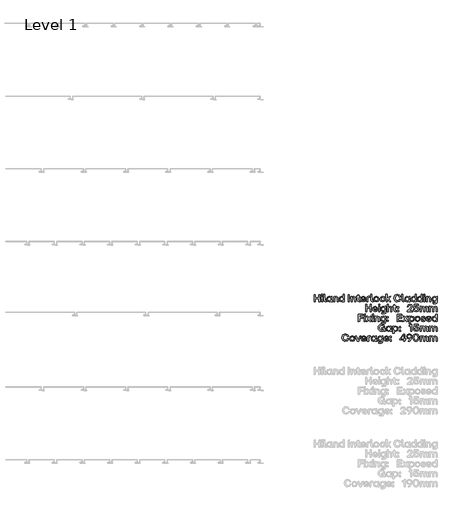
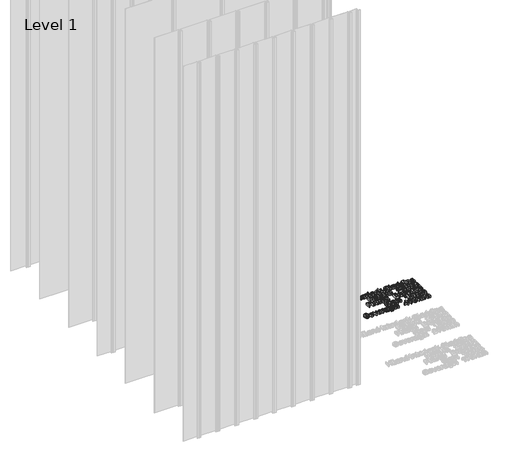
# One storey, part 53 of 64: 1 proxy.
"""IFC4 building model written with IfcOpenShell, lengths in millimetres."""

from ifc_helpers import new_model, si_unit, origin, origin_with_axes, place, context, project, spatial, polyline, outline, extrude, element, save

model = new_model("IFC4")

# Units and contexts
model_context = context("Model", 3, world=origin())
ifc_project = project(units=[si_unit("LENGTHUNIT", "METRE", prefix="MILLI")], contexts=[model_context])

# Site, building, storey
site = spatial("IfcSite", under=ifc_project)
building = spatial("IfcBuilding", under=site)
storey = spatial("IfcBuildingStorey", under=building, Name="Level 1", Elevation=0.0)

# Proxy
placement = place(None, origin())
element("IfcBuildingElementProxy", 1, Name="50mm", ObjectType="50mm", at=placement, inside=storey, context=model_context, shape_type="SweptSolid", body=[
    extrude(outline(polyline([(2183.5639115, 1096.9748178), (2182.8665797, 1118.9128767), (2159.0178316, 1118.9128767), (2159.0178316, 1097.6721497), (2151.5145413, 1096.9748178), (2150.7893162, 1146.2482839), (2158.2786599, 1146.973509), (2159.0178316, 1125.8861949), (2182.8665797, 1125.8861949), (2182.8665797, 1146.2482839), (2190.3559234, 1146.973509), (2191.0532552, 1097.6721497), (2183.5639115, 1096.9748178)])), origin_with_axes(), (0.0, 0.0, 1.0), 20.0),
    extrude(outline(polyline([(2201.1506198, 1096.9748178), (2200.4253948, 1132.6782068), (2207.6358057, 1133.3755386), (2208.3331375, 1097.6721497), (2201.1506198, 1096.9748178)])), origin_with_axes(), (0.0, 0.0, 1.0), 20.0),
    extrude(outline(polyline([(2200.2161952, 1140.0420307), (2199.8675293, 1148.0892399), (2208.2634043, 1148.8284116), (2209.0025761, 1140.3906966), (2200.2161952, 1140.0420307)])), origin_with_axes(), (0.0, 0.0, 1.0), 20.0),
    extrude(outline(polyline([(2227.7329086, 1096.9748178), (2220.0343654, 1099.6246787), (2217.3845045, 1107.3371686), (2217.3845045, 1147.6708408), (2224.5949154, 1148.4100125), (2225.2922473, 1103.2508042), (2231.9587394, 1103.2508042), (2232.6560712, 1097.6721497), (2227.7329086, 1096.9748178)])), origin_with_axes(), (0.0, 0.0, 1.0), 20.0),
    extrude(outline(polyline([(2252.8229073, 1096.5564188), (2241.0519463, 1101.5981278), (2236.6727025, 1115.105445), (2241.0519463, 1128.7452553), (2252.8229073, 1133.8357776), (2259.4405862, 1132.2319144), (2264.4265087, 1127.838724), (2264.7472813, 1132.6782068), (2271.929799, 1133.3755386), (2272.6550241, 1103.2508042), (2276.6019222, 1103.2508042), (2277.299254, 1097.6721497), (2271.3022004, 1096.9748178), (2266.6475105, 1098.282315), (2265.0959472, 1102.2048065), (2259.7404389, 1098.1602819), (2252.8229073, 1096.5564188)]), holes=[polyline([(2244.7338583, 1115.105445), (2247.4883189, 1106.2144644), (2255.0125292, 1102.9718715), (2262.3763532, 1106.2005178), (2265.0262141, 1115.105445), (2262.3554332, 1124.1010254), (2255.0125292, 1127.378485), (2247.4883189, 1124.1010254), (2244.7338583, 1115.105445)])]), origin_with_axes(), (0.0, 0.0, 1.0), 20.0),
    extrude(outline(polyline([(2284.160999, 1096.9748178), (2283.435774, 1132.6782068), (2290.297519, 1133.3755386), (2290.9948508, 1127.838724), (2296.1585929, 1132.3365142), (2302.7797585, 1133.8357776), (2312.3401777, 1129.6517867), (2315.6525038, 1117.40664), (2315.6525038, 1097.6721497), (2308.4281462, 1096.9748178), (2307.7029211, 1117.40664), (2305.750392, 1124.7844106), (2299.5790055, 1127.0995522), (2293.3518324, 1124.749544), (2291.3435167, 1117.40664), (2291.3435167, 1097.6721497), (2284.160999, 1096.9748178)])), origin_with_axes(), (0.0, 0.0, 1.0), 20.0),
    extrude(outline(polyline([(2338.5110407, 1096.5564188), (2326.7400796, 1101.5981278), (2322.3608359, 1115.105445), (2326.7400796, 1128.7452553), (2338.5110407, 1133.8357776), (2345.1287196, 1132.2319144), (2350.1146421, 1127.838724), (2350.4354147, 1147.6708408), (2357.6179324, 1148.4100125), (2358.3431575, 1097.6721497), (2351.4814124, 1096.9748178), (2350.7840806, 1102.4837392), (2345.4285723, 1098.1602819), (2338.5110407, 1096.5564188)]), holes=[polyline([(2330.4219916, 1115.105445), (2333.1764523, 1106.2144644), (2340.7006626, 1102.9718715), (2348.0644865, 1106.2005178), (2350.7143474, 1115.105445), (2348.0435666, 1124.1010254), (2340.7006626, 1127.378485), (2333.1764523, 1124.1010254), (2330.4219916, 1115.105445)])]), origin_with_axes(), (0.0, 0.0, 1.0), 20.0),
    extrude(outline(polyline([(2385.7204045, 1096.9748178), (2385.0230727, 1146.2482839), (2392.526363, 1146.973509), (2393.2236949, 1097.6721497), (2385.7204045, 1096.9748178)])), origin_with_axes(), (0.0, 0.0, 1.0), 20.0),
    extrude(outline(polyline([(2403.7673519, 1096.9748178), (2403.0421268, 1132.6782068), (2409.9038719, 1133.3755386), (2410.6012037, 1127.838724), (2415.7649458, 1132.3365142), (2422.3861113, 1133.8357776), (2431.9465305, 1129.6517867), (2435.2588566, 1117.40664), (2435.2588566, 1097.6721497), (2428.034499, 1096.9748178), (2427.3092739, 1117.40664), (2425.3567449, 1124.7844106), (2419.1853583, 1127.0995522), (2412.9581852, 1124.749544), (2410.9498696, 1117.40664), (2410.9498696, 1097.6721497), (2403.7673519, 1096.9748178)])), origin_with_axes(), (0.0, 0.0, 1.0), 20.0),
    extrude(outline(polyline([(2458.5357926, 1096.9748178), (2450.8233027, 1099.6246787), (2448.1734418, 1107.3371686), (2448.1734418, 1127.0995522), (2441.9671887, 1127.0995522), (2441.2419636, 1132.6782068), (2448.1734418, 1133.3755386), (2448.1734418, 1143.3892234), (2455.3977994, 1144.1144485), (2456.0951313, 1133.3755386), (2464.8815121, 1133.3755386), (2465.6067372, 1127.838724), (2456.0951313, 1127.0995522), (2456.0951313, 1103.2508042), (2464.8815121, 1103.2508042), (2465.6067372, 1097.6721497), (2458.5357926, 1096.9748178)])), origin_with_axes(), (0.0, 0.0, 1.0), 20.0),
    extrude(outline(polyline([(2488.9394597, 1096.5564188), (2475.5367422, 1101.5981278), (2470.5298998, 1115.105445), (2475.5158223, 1128.759202), (2488.9394597, 1133.8357776), (2501.219473, 1128.8289351), (2505.7172632, 1115.1751782), (2505.7172632, 1113.264489), (2478.6607888, 1112.5253173), (2481.7290488, 1105.482266), (2488.9394597, 1102.9718715), (2494.7273138, 1104.2479887), (2497.7258406, 1107.8253009), (2504.8107318, 1108.4110596), (2500.1525553, 1099.6455987), (2488.9394597, 1096.5564188)]), holes=[polyline([(2478.730522, 1118.3131714), (2497.9350401, 1118.3131714), (2495.2921526, 1124.9587436), (2488.9394597, 1127.378485), (2481.8475952, 1125.07729), (2478.730522, 1118.3131714)])]), origin_with_axes(), (0.0, 0.0, 1.0), 20.0),
    extrude(outline(polyline([(2513.1787136, 1096.9748178), (2512.4813818, 1123.0550277), (2515.1312427, 1130.7465976), (2522.8297859, 1133.3755386), (2532.9829371, 1133.3755386), (2533.6802689, 1127.378485), (2520.3891246, 1126.6811531), (2520.3891246, 1097.6721497), (2513.1787136, 1096.9748178)])), origin_with_axes(), (0.0, 0.0, 1.0), 20.0),
    extrude(outline(polyline([(2550.8485782, 1096.9748178), (2543.150035, 1099.6246787), (2540.5001741, 1107.3371686), (2540.5001741, 1147.6708408), (2547.7105851, 1148.4100125), (2548.4079169, 1103.2508042), (2555.074409, 1103.2508042), (2555.7717408, 1097.6721497), (2550.8485782, 1096.9748178)])), origin_with_axes(), (0.0, 0.0, 1.0), 20.0),
    extrude(outline(polyline([(2577.9887324, 1096.5564188), (2564.8300811, 1101.6818076), (2559.7883721, 1115.105445), (2564.8440277, 1128.6406555), (2577.9887324, 1133.8357776), (2591.2589569, 1128.6406555), (2596.3285592, 1115.105445), (2591.2589569, 1101.6818076), (2577.9887324, 1096.5564188)]), holes=[polyline([(2567.8495279, 1115.105445), (2570.548202, 1106.2005178), (2577.9887324, 1102.9718715), (2585.5268894, 1106.2144644), (2588.28135, 1115.105445), (2585.540836, 1124.1010254), (2577.9887324, 1127.378485), (2570.548202, 1124.1010254), (2567.8495279, 1115.105445)])]), origin_with_axes(), (0.0, 0.0, 1.0), 20.0),
    extrude(outline(polyline([(2620.0796808, 1096.5564188), (2606.7466965, 1101.5981278), (2601.7398541, 1115.105445), (2606.8164297, 1128.6406555), (2620.0796808, 1133.8357776), (2631.15331, 1130.3979317), (2636.369352, 1121.3116982), (2629.3541939, 1120.5446332), (2625.783855, 1125.844355), (2620.0796808, 1127.378485), (2612.5206039, 1124.1010254), (2609.8010098, 1115.105445), (2612.5345505, 1106.1795978), (2620.0796808, 1102.9718715), (2625.958188, 1104.4362683), (2628.9357948, 1109.1781246), (2636.0206861, 1109.8475631), (2631.3625095, 1099.9942646), (2620.0796808, 1096.5564188)])), origin_with_axes(), (0.0, 0.0, 1.0), 20.0),
    extrude(outline(polyline([(2644.765227, 1096.9748178), (2644.0400019, 1147.6708408), (2651.2504129, 1148.4100125), (2651.9477447, 1117.6158396), (2667.1914182, 1133.0268727), (2675.0991609, 1133.3755386), (2662.3798286, 1118.4526377), (2676.4659313, 1097.8534559), (2668.8231746, 1096.9748178), (2657.1080001, 1113.264489), (2651.9477447, 1108.2018601), (2651.9477447, 1097.6721497), (2644.765227, 1096.9748178)])), origin_with_axes(), (0.0, 0.0, 1.0), 20.0),
    extrude(outline(polyline([(2722.7548172, 1096.5564188), (2712.7481056, 1098.2701117), (2705.0425891, 1103.4111905), (2700.1263998, 1111.4810629), (2698.48767, 1121.9811367), (2700.1403464, 1132.3051342), (2705.0983756, 1140.4046433), (2712.8178388, 1145.6450918), (2722.7548172, 1147.391908), (2736.9315729, 1142.7755714), (2743.8839711, 1130.4885849), (2736.5619871, 1129.6796799), (2731.398245, 1137.8698421), (2722.7548172, 1140.3906966), (2711.0954292, 1135.4535874), (2706.8556518, 1121.9811367), (2711.0745093, 1108.397113), (2722.7548172, 1103.5297369), (2731.5690913, 1106.0157248), (2736.2551611, 1113.4736886), (2743.6747716, 1114.1291805), (2737.2105057, 1101.1588087), (2722.7548172, 1096.5564188)])), origin_with_axes(), (0.0, 0.0, 1.0), 20.0),
    extrude(outline(polyline([(2762.3911575, 1096.9748178), (2754.6926143, 1099.6246787), (2752.0427534, 1107.3371686), (2752.0427534, 1147.6708408), (2759.2531643, 1148.4100125), (2759.9504961, 1103.2508042), (2766.6169883, 1103.2508042), (2767.3143201, 1097.6721497), (2762.3911575, 1096.9748178)])), origin_with_axes(), (0.0, 0.0, 1.0), 20.0),
    extrude(outline(polyline([(2787.4811562, 1096.5564188), (2775.7101952, 1101.5981278), (2771.3309514, 1115.105445), (2775.7101952, 1128.7452553), (2787.4811562, 1133.8357776), (2794.0988351, 1132.2319144), (2799.0847576, 1127.838724), (2799.4055302, 1132.6782068), (2806.5880479, 1133.3755386), (2807.313273, 1103.2508042), (2811.2601711, 1103.2508042), (2811.9575029, 1097.6721497), (2805.9604493, 1096.9748178), (2801.3057594, 1098.282315), (2799.7541961, 1102.2048065), (2794.3986878, 1098.1602819), (2787.4811562, 1096.5564188)]), holes=[polyline([(2779.3921071, 1115.105445), (2782.1465678, 1106.2144644), (2789.6707781, 1102.9718715), (2797.034602, 1106.2005178), (2799.6844629, 1115.105445), (2797.0136821, 1124.1010254), (2789.6707781, 1127.378485), (2782.1465678, 1124.1010254), (2779.3921071, 1115.105445)])]), origin_with_axes(), (0.0, 0.0, 1.0), 20.0),
    extrude(outline(polyline([(2832.1103923, 1096.5564188), (2820.3394313, 1101.5981278), (2815.9601875, 1115.105445), (2820.3394313, 1128.7452553), (2832.1103923, 1133.8357776), (2838.7280712, 1132.2319144), (2843.7139937, 1127.838724), (2844.0347663, 1147.6708408), (2851.217284, 1148.4100125), (2851.9425091, 1097.6721497), (2845.0807641, 1096.9748178), (2844.3834323, 1102.4837392), (2839.0279239, 1098.1602819), (2832.1103923, 1096.5564188)]), holes=[polyline([(2824.0213433, 1115.105445), (2826.7758039, 1106.2144644), (2834.3000142, 1102.9718715), (2841.6638382, 1106.2005178), (2844.3136991, 1115.105445), (2841.6429182, 1124.1010254), (2834.3000142, 1127.378485), (2826.7758039, 1124.1010254), (2824.0213433, 1115.105445)])]), origin_with_axes(), (0.0, 0.0, 1.0), 20.0),
    extrude(outline(polyline([(2874.954459, 1096.5564188), (2863.183498, 1101.5981278), (2858.8042542, 1115.105445), (2863.183498, 1128.7452553), (2874.954459, 1133.8357776), (2881.5721379, 1132.2319144), (2886.5580604, 1127.838724), (2886.878833, 1147.6708408), (2894.0613507, 1148.4100125), (2894.7865758, 1097.6721497), (2887.9248308, 1096.9748178), (2887.2274989, 1102.4837392), (2881.8719906, 1098.1602819), (2874.954459, 1096.5564188)]), holes=[polyline([(2866.86541, 1115.105445), (2869.6198706, 1106.2144644), (2877.1440809, 1102.9718715), (2884.5079049, 1106.2005178), (2887.1577658, 1115.105445), (2884.4869849, 1124.1010254), (2877.1440809, 1127.378485), (2869.6198706, 1124.1010254), (2866.86541, 1115.105445)])]), origin_with_axes(), (0.0, 0.0, 1.0), 20.0),
    extrude(outline(polyline([(2904.5073813, 1096.9748178), (2903.7821562, 1132.6782068), (2910.9925672, 1133.3755386), (2911.689899, 1097.6721497), (2904.5073813, 1096.9748178)])), origin_with_axes(), (0.0, 0.0, 1.0), 20.0),
    extrude(outline(polyline([(2903.5729567, 1140.0420307), (2903.2242908, 1148.0892399), (2911.6201658, 1148.8284116), (2912.3593375, 1140.3906966), (2903.5729567, 1140.0420307)])), origin_with_axes(), (0.0, 0.0, 1.0), 20.0),
    extrude(outline(polyline([(2921.466491, 1096.9748178), (2920.741266, 1132.6782068), (2927.603011, 1133.3755386), (2928.3003428, 1127.838724), (2933.4640849, 1132.3365142), (2940.0852505, 1133.8357776), (2949.6456697, 1129.6517867), (2952.9579958, 1117.40664), (2952.9579958, 1097.6721497), (2945.7336382, 1096.9748178), (2945.0084131, 1117.40664), (2943.055884, 1124.7844106), (2936.8844975, 1127.0995522), (2930.6573244, 1124.749544), (2928.6490087, 1117.40664), (2928.6490087, 1097.6721497), (2921.466491, 1096.9748178)])), origin_with_axes(), (0.0, 0.0, 1.0), 20.0),
    extrude(outline(polyline([(2967.2393514, 1083.4186874), (2966.5001796, 1088.9973419), (2987.7409067, 1089.6946737), (2987.7409067, 1102.5534724), (2982.4342116, 1098.1602819), (2975.8165327, 1096.5564188), (2964.0455716, 1101.6329944), (2959.6663278, 1115.2449114), (2964.0455716, 1128.7801219), (2975.8165327, 1133.8357776), (2982.7340643, 1132.2319144), (2987.8106399, 1127.9084571), (2988.0895726, 1132.6782068), (2994.9234244, 1133.3755386), (2995.6486495, 1093.4184256), (2993.0685218, 1085.9778951), (2985.6489113, 1083.4186874), (2967.2393514, 1083.4186874)]), holes=[polyline([(2967.7274836, 1115.2449114), (2970.4819443, 1106.249331), (2978.0061546, 1102.9718715), (2985.3490586, 1106.249331), (2988.0198394, 1115.2449114), (2985.3699785, 1124.156812), (2978.0061546, 1127.378485), (2970.4819443, 1124.135892), (2967.7274836, 1115.2449114)])]), origin_with_axes(), (0.0, 0.0, 1.0), 20.0),
    extrude(outline(polyline([(2536.1348769, 1029.1231234), (2535.4375451, 1051.0611823), (2511.5887971, 1051.0611823), (2511.5887971, 1029.8204552), (2504.0855067, 1029.1231234), (2503.3602816, 1078.3965894), (2510.8496253, 1079.1218145), (2511.5887971, 1058.0345004), (2535.4375451, 1058.0345004), (2535.4375451, 1078.3965894), (2542.9268888, 1079.1218145), (2543.6242206, 1029.8204552), (2536.1348769, 1029.1231234)])), origin_with_axes(), (0.0, 0.0, 1.0), 20.0),
    extrude(outline(polyline([(2569.2720848, 1028.7047243), (2555.8693673, 1033.7464333), (2550.8625249, 1047.2537506), (2555.8484473, 1060.9075075), (2569.2720848, 1065.9840831), (2581.552098, 1060.9772407), (2586.0498882, 1047.3234838), (2586.0498882, 1045.4127946), (2558.9934138, 1044.6736229), (2562.0616738, 1037.6305715), (2569.2720848, 1035.120177), (2575.0599388, 1036.3962942), (2578.0584656, 1039.9736064), (2585.1433569, 1040.5593652), (2580.4851803, 1031.7939042), (2569.2720848, 1028.7047243)]), holes=[polyline([(2559.063147, 1050.4614769), (2578.2676652, 1050.4614769), (2575.6247776, 1057.1070491), (2569.2720848, 1059.5267905), (2562.1802202, 1057.2255955), (2559.063147, 1050.4614769)])]), origin_with_axes(), (0.0, 0.0, 1.0), 20.0),
    extrude(outline(polyline([(2593.8878978, 1029.1231234), (2593.1626727, 1064.8265123), (2600.3730837, 1065.5238441), (2601.0704155, 1029.8204552), (2593.8878978, 1029.1231234)])), origin_with_axes(), (0.0, 0.0, 1.0), 20.0),
    extrude(outline(polyline([(2592.9534732, 1072.1903363), (2592.6048073, 1080.2375454), (2601.0006823, 1080.9767171), (2601.7398541, 1072.5390022), (2592.9534732, 1072.1903363)])), origin_with_axes(), (0.0, 0.0, 1.0), 20.0),
    extrude(outline(polyline([(2615.5609706, 1015.5669929), (2614.8217989, 1021.1456474), (2636.062526, 1021.8429792), (2636.062526, 1034.7017779), (2630.7558309, 1030.3085875), (2624.1381519, 1028.7047243), (2612.3671909, 1033.7812999), (2607.9879471, 1047.3932169), (2612.3671909, 1060.9284275), (2624.1381519, 1065.9840831), (2631.0556835, 1064.3802199), (2636.1322591, 1060.0567627), (2636.4111919, 1064.8265123), (2643.2450437, 1065.5238441), (2643.9702687, 1025.5667311), (2641.390141, 1018.1262007), (2633.9705305, 1015.5669929), (2615.5609706, 1015.5669929)]), holes=[polyline([(2616.0491029, 1047.3932169), (2618.8035636, 1038.3976365), (2626.3277738, 1035.120177), (2633.6706778, 1038.3976365), (2636.3414587, 1047.3932169), (2633.6915978, 1056.3051175), (2626.3277738, 1059.5267905), (2618.8035636, 1056.2841976), (2616.0491029, 1047.3932169)])]), origin_with_axes(), (0.0, 0.0, 1.0), 20.0),
    extrude(outline(polyline([(2653.6910742, 1029.1231234), (2652.9658492, 1079.8191463), (2660.1762601, 1080.558318), (2660.8735919, 1060.2659622), (2665.9606275, 1064.5545529), (2672.3098337, 1065.9840831), (2681.8702529, 1061.8000922), (2685.182579, 1049.5549456), (2685.182579, 1029.8204552), (2677.9582214, 1029.1231234), (2677.2329963, 1049.5549456), (2675.2804672, 1056.9327162), (2669.1090807, 1059.2478578), (2662.8819076, 1056.8978496), (2660.8735919, 1049.5549456), (2660.8735919, 1029.8204552), (2653.6910742, 1029.1231234)])), origin_with_axes(), (0.0, 0.0, 1.0), 20.0),
    extrude(outline(polyline([(2708.459515, 1029.1231234), (2700.7470251, 1031.7729843), (2698.0971642, 1039.4854742), (2698.0971642, 1059.2478578), (2691.890911, 1059.2478578), (2691.165686, 1064.8265123), (2698.0971642, 1065.5238441), (2698.0971642, 1075.537529), (2705.3215218, 1076.2627541), (2706.0188536, 1065.5238441), (2714.8052345, 1065.5238441), (2715.5304596, 1059.9870295), (2706.0188536, 1059.2478578), (2706.0188536, 1035.3991097), (2714.8052345, 1035.3991097), (2715.5304596, 1029.8204552), (2708.459515, 1029.1231234)])), origin_with_axes(), (0.0, 0.0, 1.0), 20.0),
    extrude(outline(polyline([(2722.9361234, 1052.7626719), (2722.2387916, 1062.3858509), (2731.7225043, 1063.1250227), (2732.4477294, 1053.4600037), (2722.9361234, 1052.7626719)])), origin_with_axes(), (0.0, 0.0, 1.0), 20.0),
    extrude(outline(polyline([(2722.5874575, 1029.4717893), (2722.2387916, 1038.7463024), (2731.7225043, 1039.4854742), (2732.4477294, 1029.8204552), (2722.5874575, 1029.4717893)])), origin_with_axes(), (0.0, 0.0, 1.0), 20.0),
    extrude(outline(polyline([(2790.4238964, 1029.1231234), (2789.6986714, 1033.9068196), (2807.0622335, 1049.9036115), (2814.2098846, 1057.8183276), (2816.1972803, 1065.105445), (2814.216858, 1070.7852127), (2808.2755909, 1072.6784685), (2801.4068725, 1070.6004197), (2798.5547854, 1064.031554), (2791.1212283, 1063.3342222), (2795.7096716, 1075.5305557), (2808.2755909, 1079.5402136), (2820.1023385, 1075.670022), (2824.4257957, 1065.105445), (2821.7410682, 1055.328853), (2812.5711549, 1044.9246623), (2803.1153355, 1036.4172142), (2825.8483526, 1036.1382814), (2826.5456844, 1029.8204552), (2790.4238964, 1029.1231234)])), origin_with_axes(), (0.0, 0.0, 1.0), 20.0),
    extrude(outline(polyline([(2851.8030428, 1028.7047243), (2838.6025515, 1032.4005829), (2832.7937775, 1043.1115996), (2840.1576015, 1043.9065579), (2844.365999, 1037.4736719), (2851.8030428, 1035.5385761), (2859.2087066, 1038.2233036), (2861.802781, 1045.8311937), (2859.2226533, 1053.1322578), (2851.6635764, 1055.6217323), (2841.3012256, 1051.6887809), (2836.4617428, 1051.9677136), (2837.5077406, 1078.3965894), (2867.1443427, 1079.1218145), (2867.8695678, 1072.8179349), (2844.1602861, 1072.1206031), (2843.3653278, 1059.4570573), (2848.5395299, 1061.6536525), (2854.2437041, 1062.4555841), (2865.7984923, 1058.0275271), (2870.0034031, 1045.8311937), (2865.1918136, 1033.2234345), (2851.8030428, 1028.7047243)])), origin_with_axes(), (0.0, 0.0, 1.0), 20.0),
    extrude(outline(polyline([(2878.6224244, 1029.1231234), (2877.8971993, 1064.8265123), (2884.7589443, 1065.5238441), (2885.4562761, 1059.9870295), (2890.4421986, 1064.4848197), (2896.8925179, 1065.9840831), (2903.1789642, 1064.4848197), (2907.394335, 1059.9870295), (2913.2170557, 1064.4290332), (2920.4623332, 1065.9840831), (2929.7368464, 1061.8140389), (2932.9445727, 1049.5549456), (2932.9445727, 1029.8204552), (2925.7341617, 1029.1231234), (2925.0368299, 1049.5549456), (2923.154034, 1056.9327162), (2917.1848737, 1059.2478578), (2911.2784732, 1056.8978496), (2909.3747574, 1049.5549456), (2909.3747574, 1029.8204552), (2902.1643464, 1029.1231234), (2901.4670146, 1049.5549456), (2899.5981653, 1056.9327162), (2893.6847915, 1059.2478578), (2887.7086579, 1056.8978496), (2885.804942, 1049.5549456), (2885.804942, 1029.8204552), (2878.6224244, 1029.1231234)])), origin_with_axes(), (0.0, 0.0, 1.0), 20.0),
    extrude(outline(polyline([(2941.9959397, 1029.1231234), (2941.2707146, 1064.8265123), (2948.1324596, 1065.5238441), (2948.8297914, 1059.9870295), (2953.8157139, 1064.4848197), (2960.2660332, 1065.9840831), (2966.5524795, 1064.4848197), (2970.7678503, 1059.9870295), (2976.590571, 1064.4290332), (2983.8358485, 1065.9840831), (2993.1103617, 1061.8140389), (2996.318088, 1049.5549456), (2996.318088, 1029.8204552), (2989.1076771, 1029.1231234), (2988.4103452, 1049.5549456), (2986.5275493, 1056.9327162), (2980.558389, 1059.2478578), (2974.6519885, 1056.8978496), (2972.7482727, 1049.5549456), (2972.7482727, 1029.8204552), (2965.5378617, 1029.1231234), (2964.8405299, 1049.5549456), (2962.9716806, 1056.9327162), (2957.0583069, 1059.2478578), (2951.0821732, 1056.8978496), (2949.1784574, 1049.5549456), (2949.1784574, 1029.8204552), (2941.9959397, 1029.1231234)])), origin_with_axes(), (0.0, 0.0, 1.0), 20.0),
    extrude(outline(polyline([(2454.993347, 961.2714289), (2454.2681219, 1010.544895), (2485.8572531, 1011.27012), (2486.5545849, 1004.9662404), (2462.4966373, 1004.2689086), (2462.4966373, 989.2065414), (2484.4207496, 989.2065414), (2485.1180814, 982.9305551), (2462.4966373, 982.1913834), (2462.4966373, 961.9687608), (2454.993347, 961.2714289)])), origin_with_axes(), (0.0, 0.0, 1.0), 20.0),
    extrude(outline(polyline([(2494.8109936, 961.2714289), (2494.0857685, 996.9748178), (2501.2961795, 997.6721497), (2501.9935113, 961.9687608), (2494.8109936, 961.2714289)])), origin_with_axes(), (0.0, 0.0, 1.0), 20.0),
    extrude(outline(polyline([(2493.876569, 1004.3386418), (2493.5279031, 1012.3858509), (2501.9237781, 1013.1250227), (2502.6629498, 1004.6873077), (2493.876569, 1004.3386418)])), origin_with_axes(), (0.0, 0.0, 1.0), 20.0),
    extrude(outline(polyline([(2508.9110429, 961.2714289), (2521.6722151, 979.750722), (2509.4689083, 996.8353515), (2517.4603309, 997.6721497), (2526.2467118, 985.6780424), (2534.4752272, 997.2537506), (2542.5921695, 997.6721497), (2530.9885681, 980.5596269), (2544.0286731, 962.150067), (2536.0372505, 961.2714289), (2526.316445, 974.7020397), (2517.0419319, 961.689828), (2508.9110429, 961.2714289)])), origin_with_axes(), (0.0, 0.0, 1.0), 20.0),
    extrude(outline(polyline([(2551.0438311, 961.2714289), (2550.318606, 996.9748178), (2557.529017, 997.6721497), (2558.2263488, 961.9687608), (2551.0438311, 961.2714289)])), origin_with_axes(), (0.0, 0.0, 1.0), 20.0),
    extrude(outline(polyline([(2550.1094065, 1004.3386418), (2549.7607406, 1012.3858509), (2558.1566156, 1013.1250227), (2558.8957874, 1004.6873077), (2550.1094065, 1004.3386418)])), origin_with_axes(), (0.0, 0.0, 1.0), 20.0),
    extrude(outline(polyline([(2568.0029409, 961.2714289), (2567.2777158, 996.9748178), (2574.1394608, 997.6721497), (2574.8367926, 992.1353351), (2580.0005347, 996.6331253), (2586.6217003, 998.1323887), (2596.1821195, 993.9483978), (2599.4944456, 981.7032511), (2599.4944456, 961.9687608), (2592.270088, 961.2714289), (2591.5448629, 981.7032511), (2589.5923338, 989.0810217), (2583.4209473, 991.3961633), (2577.1937742, 989.0461551), (2575.1854586, 981.7032511), (2575.1854586, 961.9687608), (2568.0029409, 961.2714289)])), origin_with_axes(), (0.0, 0.0, 1.0), 20.0),
    extrude(outline(polyline([(2613.7758012, 947.7152985), (2613.0366294, 953.293953), (2634.2773565, 953.9912848), (2634.2773565, 966.8500835), (2628.9706614, 962.456893), (2622.3529825, 960.8530298), (2610.5820215, 965.9296055), (2606.2027777, 979.5415225), (2610.5820215, 993.076733), (2622.3529825, 998.1323887), (2629.2705141, 996.5285255), (2634.3470897, 992.2050682), (2634.6260224, 996.9748178), (2641.4598742, 997.6721497), (2642.1850993, 957.7150367), (2639.6049716, 950.2745062), (2632.1853611, 947.7152985), (2613.7758012, 947.7152985)]), holes=[polyline([(2614.2639334, 979.5415225), (2617.0183941, 970.5459421), (2624.5426044, 967.2684825), (2631.8855084, 970.5459421), (2634.5562892, 979.5415225), (2631.9064284, 988.4534231), (2624.5426044, 991.6750961), (2617.0183941, 988.4325031), (2614.2639334, 979.5415225)])]), origin_with_axes(), (0.0, 0.0, 1.0), 20.0),
    extrude(outline(polyline([(2651.5293456, 984.9109775), (2650.8320138, 994.5341565), (2660.3157265, 995.2733282), (2661.0409516, 985.6083093), (2651.5293456, 984.9109775)])), origin_with_axes(), (0.0, 0.0, 1.0), 20.0),
    extrude(outline(polyline([(2651.1806797, 961.6200948), (2650.8320138, 970.894608), (2660.3157265, 971.6337797), (2661.0409516, 961.9687608), (2651.1806797, 961.6200948)])), origin_with_axes(), (0.0, 0.0, 1.0), 20.0),
    extrude(outline(polyline([(2721.8761791, 961.2714289), (2721.150954, 1010.544895), (2753.437417, 1011.27012), (2754.1626421, 1004.9662404), (2729.3794694, 1004.2689086), (2729.3794694, 989.9038732), (2752.0009135, 989.9038732), (2752.7400852, 983.6278869), (2729.3794694, 982.9305551), (2729.3794694, 968.286587), (2754.1626421, 968.286587), (2754.8599739, 961.9687608), (2721.8761791, 961.2714289)])), origin_with_axes(), (0.0, 0.0, 1.0), 20.0),
    extrude(outline(polyline([(2760.6199347, 961.2714289), (2773.3811069, 979.750722), (2761.1778001, 996.8353515), (2769.1692227, 997.6721497), (2777.9556036, 985.6780424), (2786.184119, 997.2537506), (2794.3010613, 997.6721497), (2782.6974599, 980.5596269), (2795.7375649, 962.150067), (2787.7461423, 961.2714289), (2778.0253368, 974.7020397), (2768.7508236, 961.689828), (2760.6199347, 961.2714289)])), origin_with_axes(), (0.0, 0.0, 1.0), 20.0),
    extrude(outline(polyline([(2802.7527229, 947.7152985), (2802.0274978, 996.9748178), (2808.8892429, 997.6721497), (2809.5865747, 992.2050682), (2814.942083, 996.5285255), (2821.8596146, 998.1323887), (2833.6305757, 993.076733), (2838.0098195, 979.5415225), (2833.6305757, 965.9296055), (2821.8596146, 960.8530298), (2815.2419357, 962.456893), (2810.2560132, 966.8500835), (2809.9352406, 948.4126303), (2802.7527229, 947.7152985)]), holes=[polyline([(2809.6563079, 979.5415225), (2812.3270887, 970.5459421), (2819.6699927, 967.2684825), (2827.194203, 970.5459421), (2829.9486637, 979.5415225), (2827.194203, 988.4325031), (2819.6699927, 991.6750961), (2812.3061688, 988.4534231), (2809.6563079, 979.5415225)])]), origin_with_axes(), (0.0, 0.0, 1.0), 20.0),
    extrude(outline(polyline([(2860.9380895, 960.8530298), (2847.7794382, 965.9784187), (2842.7377292, 979.4020561), (2847.7933848, 992.9372666), (2860.9380895, 998.1323887), (2874.208314, 992.9372666), (2879.2779163, 979.4020561), (2874.208314, 965.9784187), (2860.9380895, 960.8530298)]), holes=[polyline([(2850.798885, 979.4020561), (2853.4975591, 970.4971288), (2860.9380895, 967.2684825), (2868.4762465, 970.5110755), (2871.2307071, 979.4020561), (2868.4901931, 988.3976365), (2860.9380895, 991.6750961), (2853.4975591, 988.3976365), (2850.798885, 979.4020561)])]), origin_with_axes(), (0.0, 0.0, 1.0), 20.0),
    extrude(outline(polyline([(2900.3094438, 960.8530298), (2889.5775072, 963.8027434), (2885.1076102, 972.2613783), (2892.0530351, 973.0563366), (2895.1352417, 968.2447471), (2900.3094438, 966.9895498), (2904.7723674, 968.1750139), (2906.4459638, 971.354847), (2905.246553, 974.2139074), (2901.1880819, 975.7061975), (2896.0975596, 976.6127289), (2888.3711231, 980.1551745), (2885.8746752, 987.2540123), (2889.5356673, 995.1687284), (2899.4029124, 998.1323887), (2909.0958246, 995.377928), (2913.3216554, 987.5608383), (2906.3762306, 986.7658801), (2903.6287432, 990.928951), (2899.4029124, 991.9958687), (2895.1491884, 990.8940844), (2893.6847915, 987.7003047), (2894.7307893, 984.9318974), (2898.538221, 983.4186874), (2903.9774091, 982.4005829), (2911.9897517, 978.9139238), (2914.2560801, 971.7732461), (2910.6299546, 963.6772237), (2900.3094438, 960.8530298)])), origin_with_axes(), (0.0, 0.0, 1.0), 20.0),
    extrude(outline(polyline([(2937.9095752, 960.8530298), (2924.5068578, 965.8947389), (2919.5000153, 979.4020561), (2924.4859378, 993.055813), (2937.9095752, 998.1323887), (2950.1895885, 993.1255462), (2954.6873787, 979.4717893), (2954.6873787, 977.5611001), (2927.6309043, 976.8219284), (2930.6991643, 969.7788771), (2937.9095752, 967.2684825), (2943.6974293, 968.5445998), (2946.6959561, 972.121912), (2953.7808473, 972.7076707), (2949.1226708, 963.9422098), (2937.9095752, 960.8530298)]), holes=[polyline([(2927.7006375, 982.6097825), (2946.9051556, 982.6097825), (2944.2622681, 989.2553547), (2937.9095752, 991.6750961), (2930.8177107, 989.3739011), (2927.7006375, 982.6097825)])]), origin_with_axes(), (0.0, 0.0, 1.0), 20.0),
    extrude(outline(polyline([(2975.8165327, 960.8530298), (2964.0455716, 965.8947389), (2959.6663278, 979.4020561), (2964.0455716, 993.0418664), (2975.8165327, 998.1323887), (2982.4342116, 996.5285255), (2987.4201341, 992.1353351), (2987.7409067, 1011.9674519), (2994.9234244, 1012.7066236), (2995.6486495, 961.9687608), (2988.7869044, 961.2714289), (2988.0895726, 966.7803503), (2982.7340643, 962.456893), (2975.8165327, 960.8530298)]), holes=[polyline([(2967.7274836, 979.4020561), (2970.4819443, 970.5110755), (2978.0061546, 967.2684825), (2985.3699785, 970.4971288), (2988.0198394, 979.4020561), (2985.3490586, 988.3976365), (2978.0061546, 991.6750961), (2970.4819443, 988.3976365), (2967.7274836, 979.4020561)])]), origin_with_axes(), (0.0, 0.0, 1.0), 20.0),
    extrude(outline(polyline([(2613.9152675, 893.0013354), (2604.231072, 894.7097983), (2596.7957715, 899.8351872), (2592.0626318, 907.8998296), (2590.4849186, 918.4260534), (2592.1986115, 928.7936341), (2597.3396903, 936.8844265), (2605.304963, 942.0987251), (2615.4912374, 943.8368247), (2630.0933656, 939.2204881), (2637.24799, 926.9335015), (2629.8841661, 926.1245966), (2624.5495777, 934.2903521), (2615.4912374, 936.8356133), (2603.315824, 931.919424), (2598.8529003, 918.4260534), (2603.0578112, 904.8559762), (2614.7520657, 899.9746535), (2624.884297, 903.4613126), (2629.6052334, 912.9868652), (2614.1244671, 912.9868652), (2613.399242, 919.2628515), (2636.6203914, 919.9880766), (2637.3177232, 894.1170663), (2630.9720037, 893.4197345), (2630.2746719, 900.7138253), (2623.6779129, 895.1142508), (2613.9152675, 893.0013354)])), origin_with_axes(), (0.0, 0.0, 1.0), 20.0),
    extrude(outline(polyline([(2660.7341256, 893.0013354), (2648.9631645, 898.0430444), (2644.5839207, 911.5503617), (2648.9631645, 925.190172), (2660.7341256, 930.2806942), (2667.3518045, 928.676831), (2672.337727, 924.2836406), (2672.6584996, 929.1231234), (2679.8410173, 929.8204552), (2680.5662424, 899.6957208), (2684.5131404, 899.6957208), (2685.2104723, 894.1170663), (2679.2134187, 893.4197345), (2674.5587288, 894.7272316), (2673.0071655, 898.6497231), (2667.6516572, 894.6051986), (2660.7341256, 893.0013354)]), holes=[polyline([(2652.6450765, 911.5503617), (2655.3995372, 902.659381), (2662.9237475, 899.4167881), (2670.2875714, 902.6454344), (2672.9374323, 911.5503617), (2670.2666515, 920.5459421), (2662.9237475, 923.8234016), (2655.3995372, 920.5459421), (2652.6450765, 911.5503617)])]), origin_with_axes(), (0.0, 0.0, 1.0), 20.0),
    extrude(outline(polyline([(2692.0722173, 879.863604), (2691.3469922, 929.1231234), (2698.2087373, 929.8204552), (2698.9060691, 924.3533738), (2704.2615774, 928.676831), (2711.179109, 930.2806942), (2722.9500701, 925.2250385), (2727.3293139, 911.689828), (2722.9500701, 898.077911), (2711.179109, 893.0013354), (2704.5614301, 894.6051986), (2699.5755076, 898.998389), (2699.254735, 880.5609358), (2692.0722173, 879.863604)]), holes=[polyline([(2698.9758023, 911.689828), (2701.6465831, 902.6942476), (2708.9894871, 899.4167881), (2716.5136974, 902.6942476), (2719.2681581, 911.689828), (2716.5136974, 920.5808087), (2708.9894871, 923.8234016), (2701.6256632, 920.6017286), (2698.9758023, 911.689828)])]), origin_with_axes(), (0.0, 0.0, 1.0), 20.0),
    extrude(outline(polyline([(2734.5397248, 917.059283), (2733.842393, 926.682462), (2743.3261057, 927.4216338), (2744.0513308, 917.7566148), (2734.5397248, 917.059283)])), origin_with_axes(), (0.0, 0.0, 1.0), 20.0),
    extrude(outline(polyline([(2734.1910589, 893.7684004), (2733.842393, 903.0429135), (2743.3261057, 903.7820852), (2744.0513308, 894.1170663), (2734.1910589, 893.7684004)])), origin_with_axes(), (0.0, 0.0, 1.0), 20.0),
    extrude(outline(polyline([(2814.9002431, 893.4197345), (2814.1610714, 928.4257916), (2803.1153355, 928.4257916), (2802.3761637, 934.7017779), (2814.5097373, 935.3991097), (2814.5097373, 942.6932005), (2821.8038281, 943.4184256), (2822.5290532, 894.1170663), (2814.9002431, 893.4197345)])), origin_with_axes(), (0.0, 0.0, 1.0), 20.0),
    extrude(outline(polyline([(2851.8030428, 893.0013354), (2838.6025515, 896.697194), (2832.7937775, 907.4082107), (2840.1576015, 908.203169), (2844.365999, 901.770283), (2851.8030428, 899.8351872), (2859.2087066, 902.5199147), (2861.802781, 910.1278048), (2859.2226533, 917.4288689), (2851.6635764, 919.9183434), (2841.3012256, 915.985392), (2836.4617428, 916.2643247), (2837.5077406, 942.6932005), (2867.1443427, 943.4184256), (2867.8695678, 937.114546), (2844.1602861, 936.4172142), (2843.3653278, 923.7536684), (2848.5395299, 925.9502636), (2854.2437041, 926.7521952), (2865.7984923, 922.3241382), (2870.0034031, 910.1278048), (2865.1918136, 897.5200456), (2851.8030428, 893.0013354)])), origin_with_axes(), (0.0, 0.0, 1.0), 20.0),
    extrude(outline(polyline([(2878.6224244, 893.4197345), (2877.8971993, 929.1231234), (2884.7589443, 929.8204552), (2885.4562761, 924.2836406), (2890.4421986, 928.7814308), (2896.8925179, 930.2806942), (2903.1789642, 928.7814308), (2907.394335, 924.2836406), (2913.2170557, 928.7256443), (2920.4623332, 930.2806942), (2929.7368464, 926.11065), (2932.9445727, 913.8515567), (2932.9445727, 894.1170663), (2925.7341617, 893.4197345), (2925.0368299, 913.8515567), (2923.154034, 921.2293273), (2917.1848737, 923.5444689), (2911.2784732, 921.1944607), (2909.3747574, 913.8515567), (2909.3747574, 894.1170663), (2902.1643464, 893.4197345), (2901.4670146, 913.8515567), (2899.5981653, 921.2293273), (2893.6847915, 923.5444689), (2887.7086579, 921.1944607), (2885.804942, 913.8515567), (2885.804942, 894.1170663), (2878.6224244, 893.4197345)])), origin_with_axes(), (0.0, 0.0, 1.0), 20.0),
    extrude(outline(polyline([(2941.9959397, 893.4197345), (2941.2707146, 929.1231234), (2948.1324596, 929.8204552), (2948.8297914, 924.2836406), (2953.8157139, 928.7814308), (2960.2660332, 930.2806942), (2966.5524795, 928.7814308), (2970.7678503, 924.2836406), (2976.590571, 928.7256443), (2983.8358485, 930.2806942), (2993.1103617, 926.11065), (2996.318088, 913.8515567), (2996.318088, 894.1170663), (2989.1076771, 893.4197345), (2988.4103452, 913.8515567), (2986.5275493, 921.2293273), (2980.558389, 923.5444689), (2974.6519885, 921.1944607), (2972.7482727, 913.8515567), (2972.7482727, 894.1170663), (2965.5378617, 893.4197345), (2964.8405299, 913.8515567), (2962.9716806, 921.2293273), (2957.0583069, 923.5444689), (2951.0821732, 921.1944607), (2949.1784574, 913.8515567), (2949.1784574, 894.1170663), (2941.9959397, 893.4197345)])), origin_with_axes(), (0.0, 0.0, 1.0), 20.0),
    extrude(outline(polyline([(2365.7209281, 825.1496409), (2355.7142165, 826.8633339), (2348.0087, 832.0044127), (2343.0925107, 840.0742851), (2341.4537809, 850.5743589), (2343.1064573, 860.8983564), (2348.0644865, 868.9978654), (2355.7839497, 874.238314), (2365.7209281, 875.9851302), (2379.8976839, 871.3687936), (2386.8500821, 859.081807), (2379.528098, 858.2729021), (2374.3643559, 866.4630643), (2365.7209281, 868.9839188), (2354.0615401, 864.0468096), (2349.8217627, 850.5743589), (2354.0406202, 836.9903352), (2365.7209281, 832.1229591), (2374.5352022, 834.608947), (2379.221272, 842.0669108), (2386.6408825, 842.7224027), (2380.1766166, 829.7520309), (2365.7209281, 825.1496409)])), origin_with_axes(), (0.0, 0.0, 1.0), 20.0),
    extrude(outline(polyline([(2411.0753893, 825.1496409), (2397.916738, 830.2750298), (2392.8750289, 843.6986672), (2397.9306846, 857.2338777), (2411.0753893, 862.4289998), (2424.3456137, 857.2338777), (2429.415216, 843.6986672), (2424.3456137, 830.2750298), (2411.0753893, 825.1496409)]), holes=[polyline([(2400.9361847, 843.6986672), (2403.6348588, 834.7937399), (2411.0753893, 831.5650936), (2418.6135462, 834.8076866), (2421.3680069, 843.6986672), (2418.6274929, 852.6942476), (2411.0753893, 855.9717071), (2403.6348588, 852.6942476), (2400.9361847, 843.6986672)])]), origin_with_axes(), (0.0, 0.0, 1.0), 20.0),
    extrude(outline(polyline([(2447.5179499, 825.56804), (2433.1250213, 861.1319626), (2440.3772722, 861.9687608), (2451.8135139, 832.0532259), (2462.6500503, 861.4108953), (2470.0138743, 861.9687608), (2456.9040362, 826.1259055), (2447.5179499, 825.56804)])), origin_with_axes(), (0.0, 0.0, 1.0), 20.0),
    extrude(outline(polyline([(2492.5097986, 825.1496409), (2479.1070811, 830.19135), (2474.1002387, 843.6986672), (2479.0861612, 857.3524241), (2492.5097986, 862.4289998), (2504.7898119, 857.4221573), (2509.2876021, 843.7684004), (2509.2876021, 841.8577112), (2482.2311277, 841.1185395), (2485.2993877, 834.0754882), (2492.5097986, 831.5650936), (2498.2976527, 832.8412109), (2501.2961795, 836.4185231), (2508.3810707, 837.0042818), (2503.7228942, 828.2388209), (2492.5097986, 825.1496409)]), holes=[polyline([(2482.3008608, 846.9063936), (2501.505379, 846.9063936), (2498.8624914, 853.5519658), (2492.5097986, 855.9717071), (2485.4179341, 853.6705122), (2482.3008608, 846.9063936)])]), origin_with_axes(), (0.0, 0.0, 1.0), 20.0),
    extrude(outline(polyline([(2516.7490525, 825.56804), (2516.0517207, 851.6482499), (2518.7015816, 859.3398198), (2526.4001248, 861.9687608), (2536.553276, 861.9687608), (2537.2506078, 855.9717071), (2523.9594635, 855.2743753), (2523.9594635, 826.2653718), (2516.7490525, 825.56804)])), origin_with_axes(), (0.0, 0.0, 1.0), 20.0),
    extrude(outline(polyline([(2558.0868825, 825.1496409), (2546.3159214, 830.19135), (2541.9366776, 843.6986672), (2546.3159214, 857.3384775), (2558.0868825, 862.4289998), (2564.7045614, 860.8251366), (2569.6904839, 856.4319461), (2570.0112565, 861.2714289), (2577.1937742, 861.9687608), (2577.9189993, 831.8440264), (2581.8658973, 831.8440264), (2582.5632291, 826.2653718), (2576.5661755, 825.56804), (2571.9114857, 826.8755372), (2570.3599224, 830.7980286), (2565.0044141, 826.7535041), (2558.0868825, 825.1496409)]), holes=[polyline([(2549.9978334, 843.6986672), (2552.7522941, 834.8076866), (2560.2765044, 831.5650936), (2567.6403283, 834.7937399), (2570.2901892, 843.6986672), (2567.6194084, 852.6942476), (2560.2765044, 855.9717071), (2552.7522941, 852.6942476), (2549.9978334, 843.6986672)])]), origin_with_axes(), (0.0, 0.0, 1.0), 20.0),
    extrude(outline(polyline([(2594.1389373, 812.0119096), (2593.3997655, 817.5905641), (2614.6404926, 818.2878959), (2614.6404926, 831.1466945), (2609.3337975, 826.7535041), (2602.7161186, 825.1496409), (2590.9451576, 830.2262166), (2586.5659138, 843.8381336), (2590.9451576, 857.3733441), (2602.7161186, 862.4289998), (2609.6336502, 860.8251366), (2614.7102258, 856.5016793), (2614.9891585, 861.2714289), (2621.8230103, 861.9687608), (2622.5482354, 822.0116478), (2619.9681077, 814.5711173), (2612.5484972, 812.0119096), (2594.1389373, 812.0119096)]), holes=[polyline([(2594.6270695, 843.8381336), (2597.3815302, 834.8425532), (2604.9057405, 831.5650936), (2612.2486445, 834.8425532), (2614.9194253, 843.8381336), (2612.2695645, 852.7500342), (2604.9057405, 855.9717071), (2597.3815302, 852.7291142), (2594.6270695, 843.8381336)])]), origin_with_axes(), (0.0, 0.0, 1.0), 20.0),
    extrude(outline(polyline([(2647.8195404, 825.1496409), (2634.4168229, 830.19135), (2629.4099805, 843.6986672), (2634.3959029, 857.3524241), (2647.8195404, 862.4289998), (2660.0995536, 857.4221573), (2664.5973438, 843.7684004), (2664.5973438, 841.8577112), (2637.5408694, 841.1185395), (2640.6091294, 834.0754882), (2647.8195404, 831.5650936), (2653.6073944, 832.8412109), (2656.6059212, 836.4185231), (2663.6908125, 837.0042818), (2659.0326359, 828.2388209), (2647.8195404, 825.1496409)]), holes=[polyline([(2637.6106026, 846.9063936), (2656.8151208, 846.9063936), (2654.1722332, 853.5519658), (2647.8195404, 855.9717071), (2640.7276758, 853.6705122), (2637.6106026, 846.9063936)])]), origin_with_axes(), (0.0, 0.0, 1.0), 20.0),
    extrude(outline(polyline([(2672.0587942, 849.2075885), (2671.3614624, 858.8307676), (2680.8451751, 859.5699393), (2681.5704002, 849.9049204), (2672.0587942, 849.2075885)])), origin_with_axes(), (0.0, 0.0, 1.0), 20.0),
    extrude(outline(polyline([(2671.7101283, 825.9167059), (2671.3614624, 835.1912191), (2680.8451751, 835.9303908), (2681.5704002, 826.2653718), (2671.7101283, 825.9167059)])), origin_with_axes(), (0.0, 0.0, 1.0), 20.0),
    extrude(outline(polyline([(2765.9057098, 825.56804), (2765.1804848, 836.000124), (2739.5465673, 836.000124), (2738.8213422, 840.0725418), (2762.600357, 875.1204388), (2772.6698284, 875.5667311), (2773.4090002, 843.0013354), (2780.6194111, 843.0013354), (2781.3167429, 836.6974558), (2773.4090002, 836.000124), (2773.4090002, 826.2653718), (2765.9057098, 825.56804)]), holes=[polyline([(2749.2394795, 843.1408018), (2765.4594175, 843.0013354), (2765.4594175, 867.4079489), (2749.2394795, 843.1408018)])]), origin_with_axes(), (0.0, 0.0, 1.0), 20.0),
    extrude(outline(polyline([(2790.9678153, 871.4524734), (2804.9005049, 875.9851302), (2818.8122746, 871.4524734), (2823.7981971, 858.8307676), (2822.0548676, 850.1350399), (2816.5041063, 840.2817413), (2806.4625282, 825.9864391), (2798.1642796, 825.56804), (2809.5307882, 843.2802681), (2802.4598436, 841.8577112), (2790.479683, 846.4949678), (2785.9609728, 858.8307676), (2790.9678153, 871.4524734)]), holes=[polyline([(2796.9509222, 866.4316844), (2794.161595, 858.8377409), (2796.9509222, 851.2368241), (2804.9005049, 848.5520966), (2812.7245679, 851.2507708), (2815.5975749, 858.8307676), (2812.8291676, 866.4386577), (2804.9005049, 869.1233852), (2796.9509222, 866.4316844)])]), origin_with_axes(), (0.0, 0.0, 1.0), 20.0),
    extrude(outline(polyline([(2850.1294464, 825.1496409), (2841.2123158, 826.7500175), (2834.8230131, 831.551147), (2830.9789714, 839.507703), (2829.6976242, 850.5743589), (2830.9789714, 861.6392715), (2834.8230131, 869.5905975), (2841.2123158, 874.386497), (2850.1294464, 875.9851302), (2858.9907904, 874.386497), (2865.3521999, 869.5905975), (2869.1857816, 861.6392715), (2870.4636421, 850.5743589), (2869.1857816, 839.507703), (2865.3521999, 831.551147), (2858.9907904, 826.7500175), (2850.1294464, 825.1496409)]), holes=[polyline([(2840.9107198, 864.6604616), (2838.065606, 850.5743589), (2840.9107198, 836.4673363), (2850.1294464, 832.1229591), (2859.2644932, 836.5161495), (2862.1235536, 850.5673856), (2859.2644932, 864.604675), (2850.1294464, 868.9839188), (2840.9107198, 864.6604616)])]), origin_with_axes(), (0.0, 0.0, 1.0), 20.0),
    extrude(outline(polyline([(2878.6224244, 825.56804), (2877.8971993, 861.2714289), (2884.7589443, 861.9687608), (2885.4562761, 856.4319461), (2890.4421986, 860.9297363), (2896.8925179, 862.4289998), (2903.1789642, 860.9297363), (2907.394335, 856.4319461), (2913.2170557, 860.8739498), (2920.4623332, 862.4289998), (2929.7368464, 858.2589555), (2932.9445727, 845.9998622), (2932.9445727, 826.2653718), (2925.7341617, 825.56804), (2925.0368299, 845.9998622), (2923.154034, 853.3776328), (2917.1848737, 855.6927744), (2911.2784732, 853.3427662), (2909.3747574, 845.9998622), (2909.3747574, 826.2653718), (2902.1643464, 825.56804), (2901.4670146, 845.9998622), (2899.5981653, 853.3776328), (2893.6847915, 855.6927744), (2887.7086579, 853.3427662), (2885.804942, 845.9998622), (2885.804942, 826.2653718), (2878.6224244, 825.56804)])), origin_with_axes(), (0.0, 0.0, 1.0), 20.0),
    extrude(outline(polyline([(2941.9959397, 825.56804), (2941.2707146, 861.2714289), (2948.1324596, 861.9687608), (2948.8297914, 856.4319461), (2953.8157139, 860.9297363), (2960.2660332, 862.4289998), (2966.5524795, 860.9297363), (2970.7678503, 856.4319461), (2976.590571, 860.8739498), (2983.8358485, 862.4289998), (2993.1103617, 858.2589555), (2996.318088, 845.9998622), (2996.318088, 826.2653718), (2989.1076771, 825.56804), (2988.4103452, 845.9998622), (2986.5275493, 853.3776328), (2980.558389, 855.6927744), (2974.6519885, 853.3427662), (2972.7482727, 845.9998622), (2972.7482727, 826.2653718), (2965.5378617, 825.56804), (2964.8405299, 845.9998622), (2962.9716806, 853.3776328), (2957.0583069, 855.6927744), (2951.0821732, 853.3427662), (2949.1784574, 845.9998622), (2949.1784574, 826.2653718), (2941.9959397, 825.56804)])), origin_with_axes(), (0.0, 0.0, 1.0), 20.0),
])

save(model, "model.ifc")
